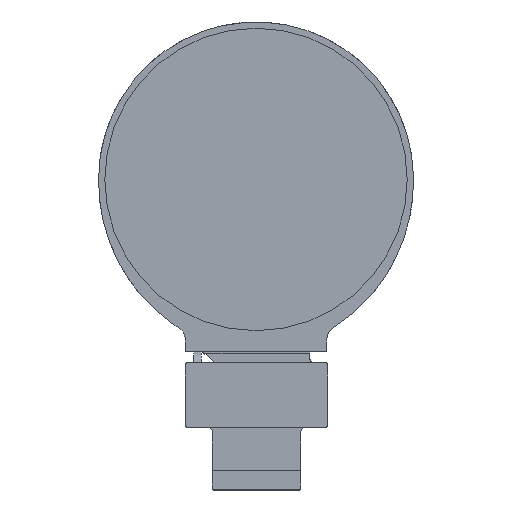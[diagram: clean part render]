
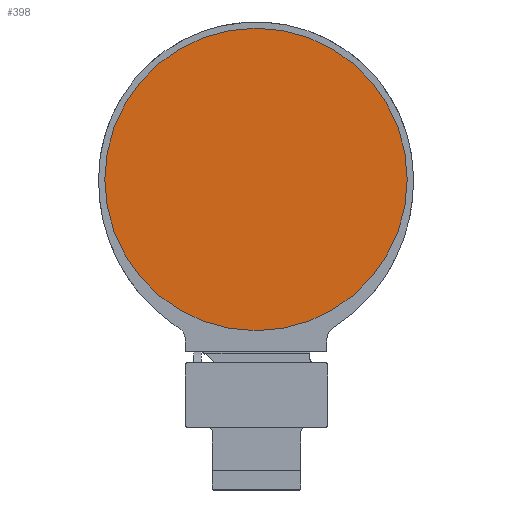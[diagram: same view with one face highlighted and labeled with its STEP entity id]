
A CAD part, top view. The second image highlights one B-rep face of the part: STEP entity #398.
In plain terms, the highlighted planar face has unit normal (0, 0, 1).
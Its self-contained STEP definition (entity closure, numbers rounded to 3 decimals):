
#197=CARTESIAN_POINT('',(0.,1.725,2.34));
#198=DIRECTION('',(0.,0.,1.));
#199=DIRECTION('',(-1.,0.,0.));
#200=AXIS2_PLACEMENT_3D('',#197,#198,#199);
#202=CARTESIAN_POINT('',(0.,1.725,2.34));
#203=DIRECTION('',(0.,0.,1.));
#204=DIRECTION('',(1.,0.,0.));
#205=AXIS2_PLACEMENT_3D('',#202,#203,#204);
#219=CARTESIAN_POINT('',(-35.065,1.725,2.34));
#220=CARTESIAN_POINT('',(35.065,1.725,2.34));
#221=VERTEX_POINT('',#219);
#222=VERTEX_POINT('',#220);
#389=CARTESIAN_POINT('',(0.,0.,2.34));
#390=DIRECTION('',(0.,0.,1.));
#391=DIRECTION('',(1.,0.,0.));
#392=AXIS2_PLACEMENT_3D('',#389,#390,#391);
#393=PLANE('',#392);
#394=ORIENTED_EDGE('',*,*,#382,.F.);
#395=ORIENTED_EDGE('',*,*,#384,.F.);
#396=EDGE_LOOP('',(#394,#395));
#397=FACE_OUTER_BOUND('',#396,.F.);
#398=ADVANCED_FACE('',(#397),#393,.T.);
#201=CIRCLE('',#200,35.065);
#206=CIRCLE('',#205,35.065);
#382=EDGE_CURVE('',#221,#222,#201,.T.);
#384=EDGE_CURVE('',#222,#221,#206,.T.);
